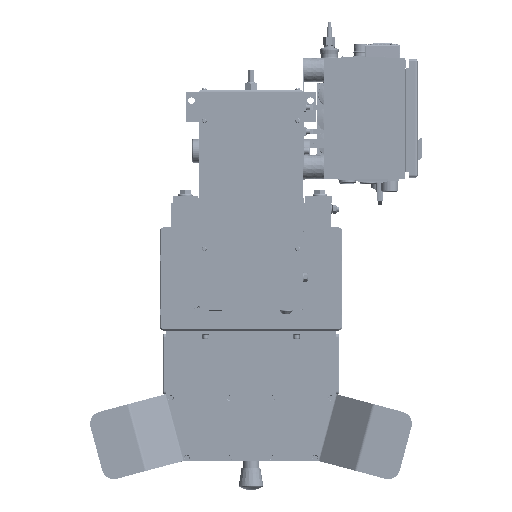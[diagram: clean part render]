
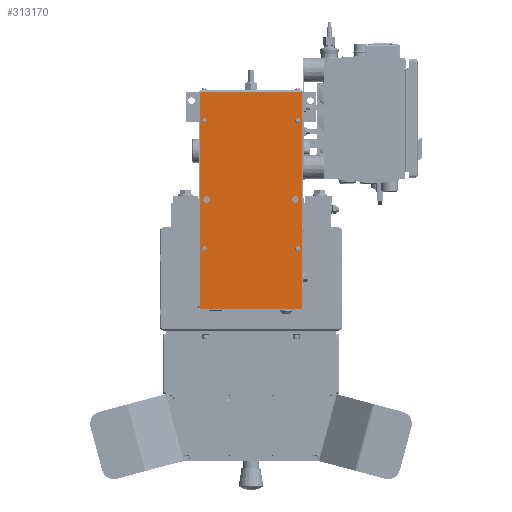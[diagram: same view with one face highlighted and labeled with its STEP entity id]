
A CAD part, top view. The second image highlights one B-rep face of the part: STEP entity #313170.
In plain terms, the highlighted planar face has unit normal (0, 0, 1).
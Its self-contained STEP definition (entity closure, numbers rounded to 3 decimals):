
#14806=FACE_BOUND('',#51016,.T.);
#14807=FACE_BOUND('',#51017,.T.);
#14808=FACE_BOUND('',#51018,.T.);
#14809=FACE_BOUND('',#51019,.T.);
#14810=FACE_BOUND('',#51020,.T.);
#14811=FACE_BOUND('',#51021,.T.);
#19691=PLANE('',#328725);
#33833=FACE_OUTER_BOUND('',#51015,.T.);
#51015=EDGE_LOOP('',(#231941,#231942,#231943,#231944));
#51016=EDGE_LOOP('',(#231945,#231946));
#51017=EDGE_LOOP('',(#231947,#231948));
#51018=EDGE_LOOP('',(#231949,#231950));
#51019=EDGE_LOOP('',(#231951,#231952));
#51020=EDGE_LOOP('',(#231953,#231954));
#51021=EDGE_LOOP('',(#231955,#231956));
#73025=LINE('',#473828,#101402);
#73183=LINE('',#474248,#101560);
#73192=LINE('',#474268,#101569);
#73193=LINE('',#474270,#101570);
#101402=VECTOR('',#361126,10.);
#101560=VECTOR('',#361580,10.);
#101569=VECTOR('',#361601,10.);
#101570=VECTOR('',#361604,10.);
#120547=CIRCLE('',#328511,4.);
#120548=CIRCLE('',#328512,4.);
#120558=CIRCLE('',#328529,4.);
#120559=CIRCLE('',#328530,4.);
#120641=CIRCLE('',#328726,4.);
#120642=CIRCLE('',#328727,4.);
#120643=CIRCLE('',#328728,4.);
#120644=CIRCLE('',#328729,4.);
#120645=CIRCLE('',#328730,5.5);
#120646=CIRCLE('',#328731,5.5);
#120647=CIRCLE('',#328732,5.5);
#120648=CIRCLE('',#328733,5.5);
#136563=VERTEX_POINT('',#473580);
#136564=VERTEX_POINT('',#473581);
#136577=VERTEX_POINT('',#473657);
#136578=VERTEX_POINT('',#473658);
#136646=VERTEX_POINT('',#473825);
#136647=VERTEX_POINT('',#473827);
#136761=VERTEX_POINT('',#474247);
#136766=VERTEX_POINT('',#474266);
#136767=VERTEX_POINT('',#474271);
#136768=VERTEX_POINT('',#474272);
#136769=VERTEX_POINT('',#474275);
#136770=VERTEX_POINT('',#474276);
#136771=VERTEX_POINT('',#474279);
#136772=VERTEX_POINT('',#474280);
#136773=VERTEX_POINT('',#474283);
#136774=VERTEX_POINT('',#474284);
#171396=EDGE_CURVE('',#136563,#136564,#120547,.T.);
#171397=EDGE_CURVE('',#136564,#136563,#120548,.T.);
#171416=EDGE_CURVE('',#136577,#136578,#120558,.T.);
#171417=EDGE_CURVE('',#136578,#136577,#120559,.T.);
#171503=EDGE_CURVE('',#136646,#136647,#73025,.T.);
#171711=EDGE_CURVE('',#136647,#136761,#73183,.T.);
#171724=EDGE_CURVE('',#136766,#136646,#73192,.T.);
#171725=EDGE_CURVE('',#136766,#136761,#73193,.T.);
#171726=EDGE_CURVE('',#136767,#136768,#120641,.T.);
#171727=EDGE_CURVE('',#136768,#136767,#120642,.T.);
#171728=EDGE_CURVE('',#136769,#136770,#120643,.T.);
#171729=EDGE_CURVE('',#136770,#136769,#120644,.T.);
#171730=EDGE_CURVE('',#136771,#136772,#120645,.T.);
#171731=EDGE_CURVE('',#136772,#136771,#120646,.T.);
#171732=EDGE_CURVE('',#136773,#136774,#120647,.T.);
#171733=EDGE_CURVE('',#136774,#136773,#120648,.T.);
#231941=ORIENTED_EDGE('',*,*,#171725,.T.);
#231942=ORIENTED_EDGE('',*,*,#171711,.F.);
#231943=ORIENTED_EDGE('',*,*,#171503,.F.);
#231944=ORIENTED_EDGE('',*,*,#171724,.F.);
#231945=ORIENTED_EDGE('',*,*,#171396,.T.);
#231946=ORIENTED_EDGE('',*,*,#171397,.T.);
#231947=ORIENTED_EDGE('',*,*,#171726,.T.);
#231948=ORIENTED_EDGE('',*,*,#171727,.T.);
#231949=ORIENTED_EDGE('',*,*,#171416,.T.);
#231950=ORIENTED_EDGE('',*,*,#171417,.T.);
#231951=ORIENTED_EDGE('',*,*,#171728,.T.);
#231952=ORIENTED_EDGE('',*,*,#171729,.T.);
#231953=ORIENTED_EDGE('',*,*,#171730,.T.);
#231954=ORIENTED_EDGE('',*,*,#171731,.T.);
#231955=ORIENTED_EDGE('',*,*,#171732,.T.);
#231956=ORIENTED_EDGE('',*,*,#171733,.T.);
#313170=ADVANCED_FACE('',(#33833,#14806,#14807,#14808,#14809,#14810,#14811),
#19691,.T.);
#328511=AXIS2_PLACEMENT_3D('',#473582,#360943,#360944);
#328512=AXIS2_PLACEMENT_3D('',#473583,#360945,#360946);
#328529=AXIS2_PLACEMENT_3D('',#473659,#360984,#360985);
#328530=AXIS2_PLACEMENT_3D('',#473660,#360986,#360987);
#328725=AXIS2_PLACEMENT_3D('',#474269,#361602,#361603);
#328726=AXIS2_PLACEMENT_3D('',#474273,#361605,#361606);
#328727=AXIS2_PLACEMENT_3D('',#474274,#361607,#361608);
#328728=AXIS2_PLACEMENT_3D('',#474277,#361609,#361610);
#328729=AXIS2_PLACEMENT_3D('',#474278,#361611,#361612);
#328730=AXIS2_PLACEMENT_3D('',#474281,#361613,#361614);
#328731=AXIS2_PLACEMENT_3D('',#474282,#361615,#361616);
#328732=AXIS2_PLACEMENT_3D('',#474285,#361617,#361618);
#328733=AXIS2_PLACEMENT_3D('',#474286,#361619,#361620);
#360943=DIRECTION('center_axis',(0.,0.,
-1.));
#360944=DIRECTION('ref_axis',(0.,1.,0.));
#360945=DIRECTION('center_axis',(0.,0.,
-1.));
#360946=DIRECTION('ref_axis',(0.,1.,0.));
#360984=DIRECTION('center_axis',(0.,0.,
-1.));
#360985=DIRECTION('ref_axis',(0.,1.,0.));
#360986=DIRECTION('center_axis',(0.,0.,
-1.));
#360987=DIRECTION('ref_axis',(0.,1.,0.));
#361126=DIRECTION('',(0.,1.,0.));
#361580=DIRECTION('',(1.,0.,0.));
#361601=DIRECTION('',(-1.,0.,0.));
#361602=DIRECTION('center_axis',(0.,0.,
1.));
#361603=DIRECTION('ref_axis',(0.,-1.,0.));
#361604=DIRECTION('',(0.,1.,0.));
#361605=DIRECTION('center_axis',(0.,0.,
-1.));
#361606=DIRECTION('ref_axis',(0.,1.,0.));
#361607=DIRECTION('center_axis',(0.,0.,
-1.));
#361608=DIRECTION('ref_axis',(0.,1.,0.));
#361609=DIRECTION('center_axis',(0.,0.,
-1.));
#361610=DIRECTION('ref_axis',(0.,1.,0.));
#361611=DIRECTION('center_axis',(0.,0.,
-1.));
#361612=DIRECTION('ref_axis',(0.,1.,0.));
#361613=DIRECTION('center_axis',(0.,0.,
-1.));
#361614=DIRECTION('ref_axis',(0.,-1.,0.));
#361615=DIRECTION('center_axis',(0.,0.,
-1.));
#361616=DIRECTION('ref_axis',(0.,-1.,0.));
#361617=DIRECTION('center_axis',(0.,0.,
-1.));
#361618=DIRECTION('ref_axis',(0.,-1.,0.));
#361619=DIRECTION('center_axis',(0.,0.,
-1.));
#361620=DIRECTION('ref_axis',(0.,-1.,0.));
#473580=CARTESIAN_POINT('',(-49.,-73.,769.));
#473581=CARTESIAN_POINT('',(-49.,-81.,769.));
#473582=CARTESIAN_POINT('Origin',(-49.,-77.,769.));
#473583=CARTESIAN_POINT('Origin',(-49.,-77.,769.));
#473657=CARTESIAN_POINT('',(-260.,-73.,769.));
#473658=CARTESIAN_POINT('',(-260.,-81.,769.));
#473659=CARTESIAN_POINT('Origin',(-260.,-77.,769.));
#473660=CARTESIAN_POINT('Origin',(-260.,-77.,769.));
#473825=CARTESIAN_POINT('',(-359.,-83.5,769.));
#473827=CARTESIAN_POINT('',(-359.,83.5,769.));
#473828=CARTESIAN_POINT('',(-359.,83.5,769.));
#474247=CARTESIAN_POINT('',(-2.,83.5,769.));
#474248=CARTESIAN_POINT('',(0.,83.5,769.));
#474266=CARTESIAN_POINT('',(-2.,-83.5,769.));
#474268=CARTESIAN_POINT('',(-359.,-83.5,769.));
#474269=CARTESIAN_POINT('Origin',(-179.5,0.,769.));
#474270=CARTESIAN_POINT('',(-2.,-41.75,769.));
#474271=CARTESIAN_POINT('',(-49.,81.,769.));
#474272=CARTESIAN_POINT('',(-49.,73.,769.));
#474273=CARTESIAN_POINT('Origin',(-49.,77.,769.));
#474274=CARTESIAN_POINT('Origin',(-49.,77.,769.));
#474275=CARTESIAN_POINT('',(-260.,81.,769.));
#474276=CARTESIAN_POINT('',(-260.,73.,769.));
#474277=CARTESIAN_POINT('Origin',(-260.,77.,769.));
#474278=CARTESIAN_POINT('Origin',(-260.,77.,769.));
#474279=CARTESIAN_POINT('',(-179.,67.5,769.));
#474280=CARTESIAN_POINT('',(-179.,78.5,769.));
#474281=CARTESIAN_POINT('Origin',(-179.,73.,769.));
#474282=CARTESIAN_POINT('Origin',(-179.,73.,769.));
#474283=CARTESIAN_POINT('',(-179.,-78.5,769.));
#474284=CARTESIAN_POINT('',(-179.,-67.5,769.));
#474285=CARTESIAN_POINT('Origin',(-179.,-73.,769.));
#474286=CARTESIAN_POINT('Origin',(-179.,-73.,769.));
